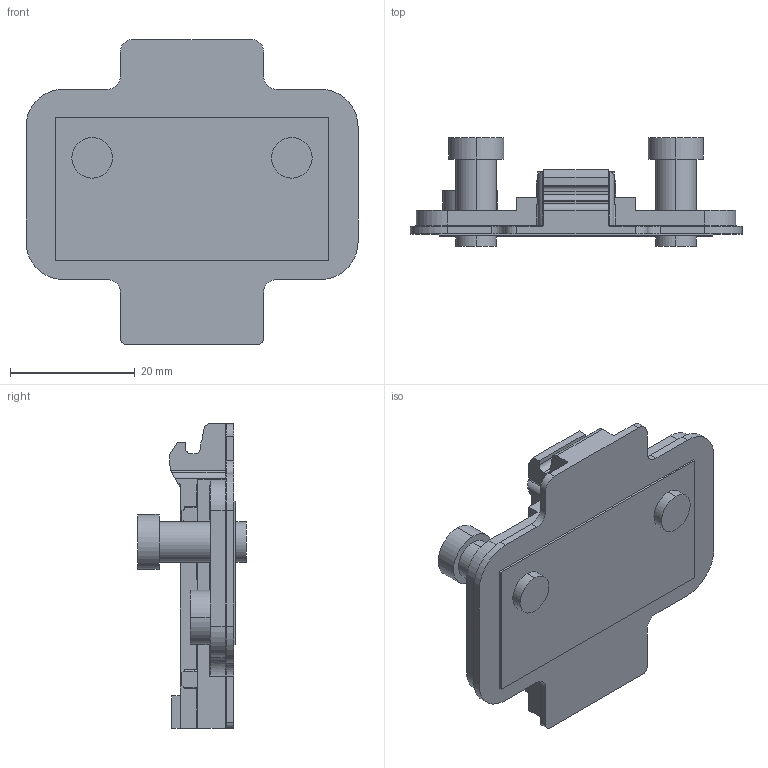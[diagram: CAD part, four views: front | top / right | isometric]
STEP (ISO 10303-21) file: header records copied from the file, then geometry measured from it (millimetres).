
FILE_DESCRIPTION (( 'STEP AP203' ), '1' );
FILE_NAME ('81T22TQA.STEP', '2024-07-27T02:57:28', ( '微软用户' ), ( '微软中国' ), 'SwSTEP 2.0', 'SolidWorks 2021', '' );
FILE_SCHEMA (( 'CONFIG_CONTROL_DESIGN' ));
Length unit declared in the file: millimetre
Products named in the file (1): 81T22TQA
Bounding box: 53.2 x 17.45 x 48.85 mm (x, y, z)
Volume: 11725.3 mm3; surface area: 6542.1 mm2
Topology: 1 solids, 1 shells, 287 faces, 774 edges, 492 vertices
Faces by surface type: cylinder 128, plane 109, torus 42, bspline 4, sphere 4
Entity records: 9674 total; most frequent: CARTESIAN_POINT 2397, ORIENTED_EDGE 1532, DIRECTION 1521, EDGE_CURVE 766, AXIS2_PLACEMENT_3D 558, VERTEX_POINT 492, VECTOR 405, LINE 405
